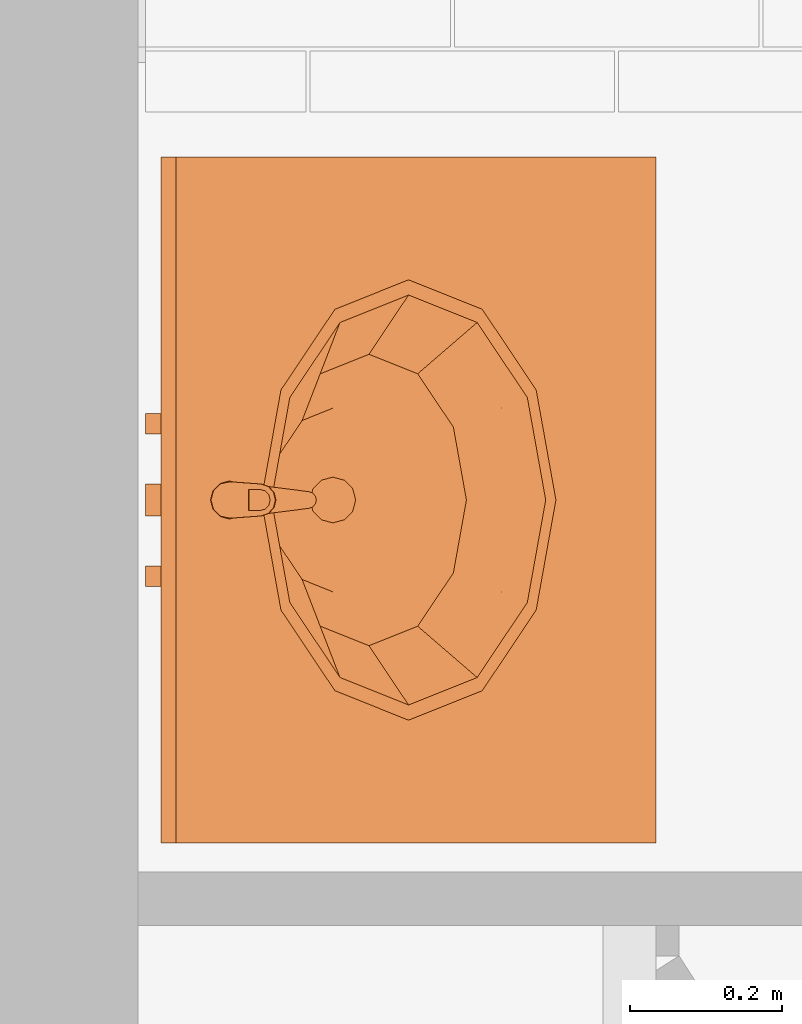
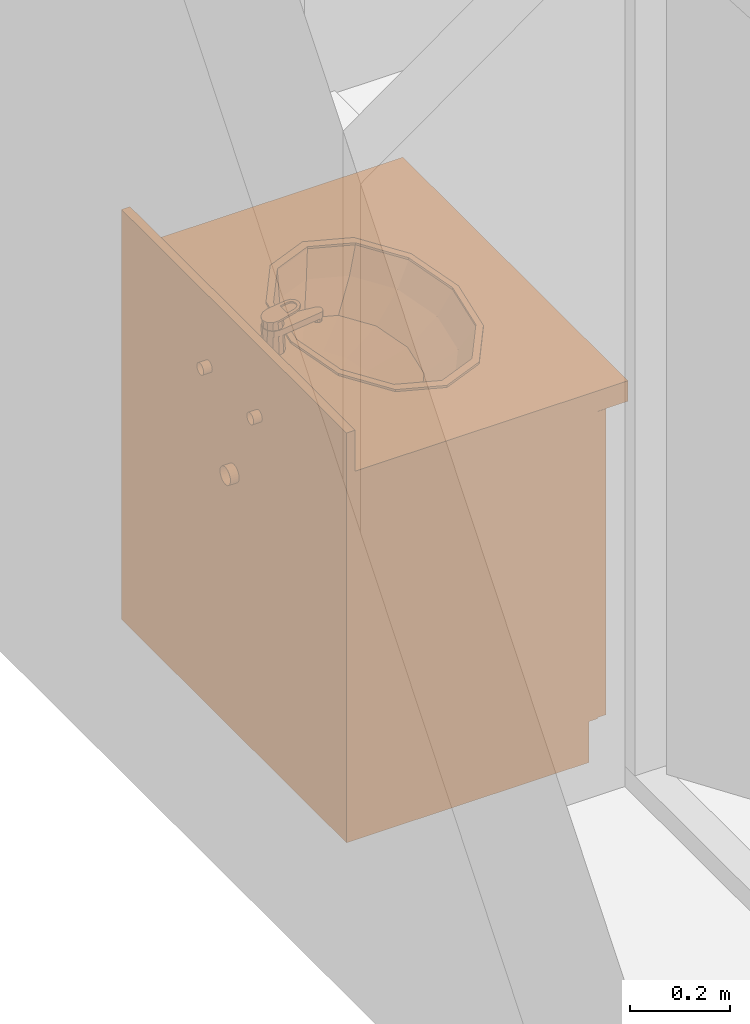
# One storey, part 13 of 13: 1 proxy.
"""IFC2X3 building model written with IfcOpenShell, lengths in metres."""

from ifc_helpers import new_model, entity, si_unit, converted_unit, derived_unit, money_unit, direction, frame, origin_with_axes, place, context, subcontext, project, spatial, open_shell, faceted_brep, surface_model, type_object, element, save


model = new_model("IFC2X3")

# Units and contexts
model_context = context("Model", 3, precision=1e-05, world=origin_with_axes(), true_north=direction((0.0, 1.0)))
body_context = subcontext(model_context, "Body", "Model", "MODEL_VIEW")
ifc_project = project(units=[si_unit("LENGTHUNIT", "METRE"), si_unit("AREAUNIT", "SQUARE_METRE"), si_unit("VOLUMEUNIT", "CUBIC_METRE"), converted_unit("PLANEANGLEUNIT", "DEGREE", entity("IfcPlaneAngleMeasure", 0.0174532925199), si_unit("PLANEANGLEUNIT", "RADIAN"), dimensions=[0, 0, 0, 0, 0, 0, 0]), si_unit("SOLIDANGLEUNIT", "STERADIAN"), money_unit("CHF"), converted_unit("TIMEUNIT", "Year", entity("IfcTimeMeasure", 31556926.0), si_unit("TIMEUNIT", "SECOND"), dimensions=[0, 0, 1, 0, 0, 0, 0]), si_unit("MASSUNIT", "GRAM", prefix="KILO"), si_unit("THERMODYNAMICTEMPERATUREUNIT", "DEGREE_CELSIUS"), si_unit("LUMINOUSINTENSITYUNIT", "LUMEN"), si_unit("ENERGYUNIT", "JOULE", prefix="MEGA"), derived_unit("THERMALCONDUCTANCEUNIT", [(si_unit("POWERUNIT", "WATT"), 1), (si_unit("LENGTHUNIT", "METRE"), -1), (si_unit("THERMODYNAMICTEMPERATUREUNIT", "KELVIN"), -1)]), derived_unit("SPECIFICHEATCAPACITYUNIT", [(si_unit("ENERGYUNIT", "JOULE"), 1), (si_unit("MASSUNIT", "GRAM", prefix="KILO"), -1), (si_unit("THERMODYNAMICTEMPERATUREUNIT", "KELVIN"), -1)]), derived_unit("MASSDENSITYUNIT", [(si_unit("MASSUNIT", "GRAM", prefix="KILO"), 1), (si_unit("VOLUMEUNIT", "CUBIC_METRE"), -1)])], contexts=[model_context])

# Site, building, storey
site_placement = place(None, origin_with_axes())
site = spatial("IfcSite", under=ifc_project, at=site_placement, Name="Site", CompositionType="ELEMENT")
building_placement = place(site_placement, origin_with_axes())
building = spatial("IfcBuilding", under=site, at=building_placement, Name="Bâtiment", CompositionType="ELEMENT")
storey_placement = place(building_placement, origin_with_axes())
storey = spatial("IfcBuildingStorey", under=building, at=storey_placement, Name="SOUS-SOL", CompositionType="ELEMENT", Elevation=0.0)

# Proxy
building_element_proxy_type = type_object("IfcBuildingElementProxyType", Name="Lavabo sur meuble 21", PredefinedType="NOTDEFINED")
proxy_placement = place(storey_placement, frame((89.9855190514, 17.2058442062, -2.74), z_axis=(0.0, 0.0, 1.0), x_axis=(0.0, 1.0, 0.0)))
element("IfcBuildingElementProxy", 1, at=proxy_placement, inside=storey, type_object=building_element_proxy_type, Name="MOB-0599", context=body_context, shape_type="SurfaceModel", body=[
    surface_model("IfcShellBasedSurfaceModel", [(-0.35, 0.65, 0.8165), (-0.35, 0.67, 0.8165), (-0.346505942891, 0.67, 0.816960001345), (-0.346505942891, 0.65, 0.816960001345), (-0.353494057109, 0.65, 0.816960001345), (-0.353494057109, 0.67, 0.816960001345), (-0.34325, 0.67, 0.818308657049), (-0.34325, 0.65, 0.818308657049), (-0.35675, 0.65, 0.818308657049), (-0.35675, 0.67, 0.818308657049), (-0.340454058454, 0.67, 0.820454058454), (-0.340454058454, 0.65, 0.820454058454), (-0.359545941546, 0.65, 0.820454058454), (-0.359545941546, 0.67, 0.820454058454), (-0.338308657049, 0.67, 0.82325), (-0.338308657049, 0.65, 0.82325), (-0.361691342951, 0.65, 0.82325), (-0.361691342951, 0.67, 0.82325), (-0.336960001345, 0.67, 0.826505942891), (-0.336960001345, 0.65, 0.826505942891), (-0.363039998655, 0.65, 0.826505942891), (-0.363039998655, 0.67, 0.826505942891), (-0.3365, 0.67, 0.83), (-0.3365, 0.65, 0.83), (-0.3635, 0.65, 0.83), (-0.3635, 0.67, 0.83), (-0.336960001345, 0.67, 0.833494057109), (-0.336960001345, 0.65, 0.833494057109), (-0.363039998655, 0.65, 0.833494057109), (-0.363039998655, 0.67, 0.833494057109), (-0.338308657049, 0.67, 0.83675), (-0.338308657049, 0.65, 0.83675), (-0.361691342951, 0.65, 0.83675), (-0.361691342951, 0.67, 0.83675), (-0.340454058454, 0.67, 0.839545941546), (-0.340454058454, 0.65, 0.839545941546), (-0.359545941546, 0.65, 0.839545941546), (-0.359545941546, 0.67, 0.839545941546), (-0.34325, 0.67, 0.841691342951), (-0.34325, 0.65, 0.841691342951), (-0.35675, 0.65, 0.841691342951), (-0.35675, 0.67, 0.841691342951), (-0.346505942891, 0.67, 0.843039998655), (-0.346505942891, 0.65, 0.843039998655), (-0.353494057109, 0.65, 0.843039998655), (-0.353494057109, 0.67, 0.843039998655), (-0.35, 0.67, 0.8435), (-0.35, 0.65, 0.8435)], [open_shell([[[0, 1, 2, 3]], [[4, 5, 1, 0]], [[3, 2, 6, 7]], [[8, 9, 5, 4]], [[7, 6, 10, 11]], [[12, 13, 9, 8]], [[11, 10, 14, 15]], [[16, 17, 13, 12]], [[15, 14, 18, 19]], [[20, 21, 17, 16]], [[19, 18, 22, 23]], [[24, 25, 21, 20]], [[23, 22, 26, 27]], [[28, 29, 25, 24]], [[27, 26, 30, 31]], [[32, 33, 29, 28]], [[31, 30, 34, 35]], [[36, 37, 33, 32]], [[35, 34, 38, 39]], [[40, 41, 37, 36]], [[39, 38, 42, 43]], [[44, 45, 41, 40]], [[43, 42, 46, 47]], [[47, 46, 45, 44]]])]),
    surface_model("IfcShellBasedSurfaceModel", [(-0.55, 0.65, 0.8165), (-0.55, 0.67, 0.8165), (-0.546505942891, 0.67, 0.816960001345), (-0.546505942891, 0.65, 0.816960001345), (-0.553494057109, 0.65, 0.816960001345), (-0.553494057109, 0.67, 0.816960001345), (-0.54325, 0.67, 0.818308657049), (-0.54325, 0.65, 0.818308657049), (-0.55675, 0.65, 0.818308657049), (-0.55675, 0.67, 0.818308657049), (-0.540454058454, 0.67, 0.820454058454), (-0.540454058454, 0.65, 0.820454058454), (-0.559545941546, 0.65, 0.820454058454), (-0.559545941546, 0.67, 0.820454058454), (-0.538308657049, 0.67, 0.82325), (-0.538308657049, 0.65, 0.82325), (-0.561691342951, 0.65, 0.82325), (-0.561691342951, 0.67, 0.82325), (-0.536960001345, 0.67, 0.826505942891), (-0.536960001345, 0.65, 0.826505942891), (-0.563039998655, 0.65, 0.826505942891), (-0.563039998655, 0.67, 0.826505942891), (-0.5365, 0.67, 0.83), (-0.5365, 0.65, 0.83), (-0.5635, 0.65, 0.83), (-0.5635, 0.67, 0.83), (-0.536960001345, 0.67, 0.833494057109), (-0.536960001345, 0.65, 0.833494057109), (-0.563039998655, 0.65, 0.833494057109), (-0.563039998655, 0.67, 0.833494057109), (-0.538308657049, 0.67, 0.83675), (-0.538308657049, 0.65, 0.83675), (-0.561691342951, 0.65, 0.83675), (-0.561691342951, 0.67, 0.83675), (-0.540454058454, 0.67, 0.839545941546), (-0.540454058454, 0.65, 0.839545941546), (-0.559545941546, 0.65, 0.839545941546), (-0.559545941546, 0.67, 0.839545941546), (-0.54325, 0.67, 0.841691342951), (-0.54325, 0.65, 0.841691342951), (-0.55675, 0.65, 0.841691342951), (-0.55675, 0.67, 0.841691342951), (-0.546505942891, 0.67, 0.843039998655), (-0.546505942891, 0.65, 0.843039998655), (-0.553494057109, 0.65, 0.843039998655), (-0.553494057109, 0.67, 0.843039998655), (-0.55, 0.67, 0.8435), (-0.55, 0.65, 0.8435)], [open_shell([[[0, 1, 2, 3]], [[4, 5, 1, 0]], [[3, 2, 6, 7]], [[8, 9, 5, 4]], [[7, 6, 10, 11]], [[12, 13, 9, 8]], [[11, 10, 14, 15]], [[16, 17, 13, 12]], [[15, 14, 18, 19]], [[20, 21, 17, 16]], [[19, 18, 22, 23]], [[24, 25, 21, 20]], [[23, 22, 26, 27]], [[28, 29, 25, 24]], [[27, 26, 30, 31]], [[32, 33, 29, 28]], [[31, 30, 34, 35]], [[36, 37, 33, 32]], [[35, 34, 38, 39]], [[40, 41, 37, 36]], [[39, 38, 42, 43]], [[44, 45, 41, 40]], [[43, 42, 46, 47]], [[47, 46, 45, 44]]])]),
    surface_model("IfcShellBasedSurfaceModel", [(-0.45, 0.65, 0.609), (-0.45, 0.67, 0.609), (-0.444564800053, 0.67, 0.609715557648), (-0.444564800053, 0.65, 0.609715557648), (-0.455435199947, 0.65, 0.609715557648), (-0.455435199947, 0.67, 0.609715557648), (-0.4395, 0.67, 0.611813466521), (-0.4395, 0.65, 0.611813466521), (-0.4605, 0.65, 0.611813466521), (-0.4605, 0.67, 0.611813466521), (-0.435150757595, 0.67, 0.615150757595), (-0.435150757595, 0.65, 0.615150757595), (-0.464849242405, 0.65, 0.615150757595), (-0.464849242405, 0.67, 0.615150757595), (-0.431813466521, 0.67, 0.6195), (-0.431813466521, 0.65, 0.6195), (-0.468186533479, 0.65, 0.6195), (-0.468186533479, 0.67, 0.6195), (-0.429715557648, 0.67, 0.624564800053), (-0.429715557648, 0.65, 0.624564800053), (-0.470284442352, 0.65, 0.624564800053), (-0.470284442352, 0.67, 0.624564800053), (-0.429, 0.67, 0.63), (-0.429, 0.65, 0.63), (-0.471, 0.65, 0.63), (-0.471, 0.67, 0.63), (-0.429715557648, 0.67, 0.635435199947), (-0.429715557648, 0.65, 0.635435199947), (-0.470284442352, 0.65, 0.635435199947), (-0.470284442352, 0.67, 0.635435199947), (-0.431813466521, 0.67, 0.6405), (-0.431813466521, 0.65, 0.6405), (-0.468186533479, 0.65, 0.6405), (-0.468186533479, 0.67, 0.6405), (-0.435150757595, 0.67, 0.644849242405), (-0.435150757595, 0.65, 0.644849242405), (-0.464849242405, 0.65, 0.644849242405), (-0.464849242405, 0.67, 0.644849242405), (-0.4395, 0.67, 0.648186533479), (-0.4395, 0.65, 0.648186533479), (-0.4605, 0.65, 0.648186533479), (-0.4605, 0.67, 0.648186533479), (-0.444564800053, 0.67, 0.650284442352), (-0.444564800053, 0.65, 0.650284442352), (-0.455435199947, 0.65, 0.650284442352), (-0.455435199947, 0.67, 0.650284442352), (-0.45, 0.67, 0.651), (-0.45, 0.65, 0.651)], [open_shell([[[0, 1, 2, 3]], [[4, 5, 1, 0]], [[3, 2, 6, 7]], [[8, 9, 5, 4]], [[7, 6, 10, 11]], [[12, 13, 9, 8]], [[11, 10, 14, 15]], [[16, 17, 13, 12]], [[15, 14, 18, 19]], [[20, 21, 17, 16]], [[19, 18, 22, 23]], [[24, 25, 21, 20]], [[23, 22, 26, 27]], [[28, 29, 25, 24]], [[27, 26, 30, 31]], [[32, 33, 29, 28]], [[31, 30, 34, 35]], [[36, 37, 33, 32]], [[35, 34, 38, 39]], [[40, 41, 37, 36]], [[39, 38, 42, 43]], [[44, 45, 41, 40]], [[43, 42, 46, 47]], [[47, 46, 45, 44]]])]),
    faceted_brep([(0.0, 0.09, 0.0), (0.0, 0.09, 0.1), (-0.9, 0.09, 0.1), (-0.9, 0.09, 0.0), (0.0, 0.65, 0.0), (0.0, 0.65, 0.1), (-0.9, 0.65, 0.1), (-0.9, 0.65, 0.0)], [[[0, 1, 2, 3]], [[4, 5, 1, 0]], [[1, 5, 6, 2]], [[3, 2, 6, 7]], [[0, 3, 7, 4]], [[7, 6, 5, 4]]]),
    faceted_brep([(0.0, 0.07, 0.1), (0.0, 0.07, 0.12), (-0.02, 0.07, 0.12), (-0.02, 0.07, 0.1), (0.0, 0.65, 0.1), (0.0, 0.65, 0.12), (-0.02, 0.65, 0.12), (-0.88, 0.65, 0.12), (-0.9, 0.65, 0.12), (-0.9, 0.07, 0.12), (-0.88, 0.07, 0.12), (-0.88, 0.07, 0.1), (-0.9, 0.07, 0.1), (-0.9, 0.65, 0.1), (-0.88, 0.65, 0.1), (-0.02, 0.65, 0.1)], [[[0, 1, 2, 3]], [[4, 5, 1, 0]], [[1, 5, 6, 7, 8, 9, 10, 2]], [[3, 2, 10, 11]], [[0, 3, 11, 12, 13, 14, 15, 4]], [[15, 6, 5, 4]], [[14, 7, 6, 15]], [[13, 8, 7, 14]], [[12, 9, 8, 13]], [[11, 10, 9, 12]]]),
    faceted_brep([(0.0, 0.07, 0.12), (0.0, 0.07, 0.85), (-0.02, 0.07, 0.85), (-0.02, 0.07, 0.12), (0.0, 0.65, 0.12), (0.0, 0.65, 0.85), (-0.9, 0.65, 0.85), (-0.9, 0.07, 0.85), (-0.88, 0.07, 0.85), (-0.88, 0.63, 0.85), (-0.02, 0.63, 0.85), (-0.02, 0.63, 0.12), (-0.88, 0.63, 0.12), (-0.88, 0.07, 0.12), (-0.9, 0.07, 0.12), (-0.9, 0.65, 0.12)], [[[0, 1, 2, 3]], [[4, 5, 1, 0]], [[1, 5, 6, 7, 8, 9, 10, 2]], [[3, 2, 10, 11]], [[0, 3, 11, 12, 13, 14, 15, 4]], [[15, 6, 5, 4]], [[14, 7, 6, 15]], [[13, 8, 7, 14]], [[12, 9, 8, 13]], [[11, 10, 9, 12]]]),
    faceted_brep([(-0.88, 0.07, 0.323333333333), (-0.88, 0.07, 0.343333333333), (-0.88, 0.63, 0.343333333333), (-0.88, 0.63, 0.323333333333), (-0.02, 0.07, 0.323333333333), (-0.02, 0.07, 0.343333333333), (-0.02, 0.63, 0.343333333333), (-0.02, 0.63, 0.323333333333)], [[[0, 1, 2, 3]], [[4, 5, 1, 0]], [[1, 5, 6, 2]], [[3, 2, 6, 7]], [[0, 3, 7, 4]], [[7, 6, 5, 4]]]),
    faceted_brep([(-0.88, 0.07, 0.566666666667), (-0.88, 0.07, 0.586666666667), (-0.88, 0.63, 0.586666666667), (-0.88, 0.63, 0.566666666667), (-0.02, 0.07, 0.566666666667), (-0.02, 0.07, 0.586666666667), (-0.02, 0.63, 0.586666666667), (-0.02, 0.63, 0.566666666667)], [[[0, 1, 2, 3]], [[4, 5, 1, 0]], [[1, 5, 6, 2]], [[3, 2, 6, 7]], [[0, 3, 7, 4]], [[7, 6, 5, 4]]]),
    faceted_brep([(0.0, 0.65, 0.85), (0.0, 0.0, 0.85), (-0.9, 0.0, 0.85), (-0.9, 0.65, 0.85), (-0.585, 0.169115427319, 0.85), (-0.45, 0.145, 0.85), (-0.315, 0.169115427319, 0.85), (-0.216173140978, 0.235, 0.85), (-0.18, 0.325, 0.85), (-0.216173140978, 0.415, 0.85), (-0.315, 0.480884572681, 0.85), (-0.45, 0.505, 0.85), (-0.585, 0.480884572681, 0.85), (-0.683826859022, 0.415, 0.85), (-0.72, 0.325, 0.85), (-0.683826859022, 0.235, 0.85), (0.0, 0.65, 0.9), (0.0, 0.0, 0.9), (-0.9, 0.0, 0.9), (-0.9, 0.65, 0.9), (-0.45, 0.145, 0.9), (-0.585, 0.169115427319, 0.9), (-0.315, 0.169115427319, 0.9), (-0.216173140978, 0.235, 0.9), (-0.18, 0.325, 0.9), (-0.216173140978, 0.415, 0.9), (-0.315, 0.480884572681, 0.9), (-0.45, 0.505, 0.9), (-0.585, 0.480884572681, 0.9), (-0.683826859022, 0.415, 0.9), (-0.72, 0.325, 0.9), (-0.683826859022, 0.235, 0.9)], [[[0, 1, 2, 3], [4, 5, 6, 7, 8, 9, 10, 11, 12, 13, 14, 15]], [[1, 0, 16, 17]], [[2, 1, 17, 18]], [[3, 2, 18, 19]], [[0, 3, 19, 16]], [[20, 5, 4, 21]], [[22, 6, 5, 20]], [[23, 7, 6, 22]], [[24, 8, 7, 23]], [[25, 9, 8, 24]], [[26, 10, 9, 25]], [[27, 11, 10, 26]], [[28, 12, 11, 27]], [[29, 13, 12, 28]], [[30, 14, 13, 29]], [[31, 15, 14, 30]], [[21, 4, 15, 31]], [[18, 17, 16, 19], [28, 27, 26, 25, 24, 23, 22, 20, 21, 31, 30, 29]]]),
    faceted_brep([(0.0, 0.63, 0.9), (0.0, 0.63, 1.0), (-0.9, 0.63, 1.0), (-0.9, 0.63, 0.9), (0.0, 0.65, 0.9), (0.0, 0.65, 1.0), (-0.9, 0.65, 1.0), (-0.9, 0.65, 0.9)], [[[0, 1, 2, 3]], [[4, 5, 1, 0]], [[1, 5, 6, 2]], [[3, 2, 6, 7]], [[0, 3, 7, 4]], [[7, 6, 5, 4]]]),
    faceted_brep([(-0.739, 0.325, 0.905), (-0.700281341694, 0.421691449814, 0.905), (-0.700281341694, 0.421691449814, 0.9), (-0.739, 0.325, 0.9), (-0.700281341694, 0.228308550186, 0.905), (-0.5945, 0.157525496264, 0.905), (-0.45, 0.131617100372, 0.905), (-0.3055, 0.157525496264, 0.905), (-0.199718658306, 0.228308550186, 0.905), (-0.161, 0.325, 0.905), (-0.199718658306, 0.421691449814, 0.905), (-0.3055, 0.492474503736, 0.905), (-0.45, 0.518382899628, 0.905), (-0.5945, 0.492474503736, 0.905), (-0.719, 0.325, 0.905), (-0.682960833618, 0.415, 0.905), (-0.5845, 0.480884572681, 0.905), (-0.45, 0.505, 0.905), (-0.3155, 0.480884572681, 0.905), (-0.217039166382, 0.415, 0.905), (-0.181, 0.325, 0.905), (-0.217039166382, 0.235, 0.905), (-0.3155, 0.169115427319, 0.905), (-0.45, 0.145, 0.905), (-0.5845, 0.169115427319, 0.905), (-0.682960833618, 0.235, 0.905), (-0.5945, 0.492474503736, 0.9), (-0.45, 0.518382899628, 0.9), (-0.3055, 0.492474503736, 0.9), (-0.199718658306, 0.421691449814, 0.9), (-0.161, 0.325, 0.9), (-0.199718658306, 0.228308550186, 0.9), (-0.3055, 0.157525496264, 0.9), (-0.45, 0.131617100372, 0.9), (-0.5945, 0.157525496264, 0.9), (-0.700281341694, 0.228308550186, 0.9), (-0.719, 0.325, 0.9), (-0.682960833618, 0.235, 0.9), (-0.5845, 0.169115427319, 0.9), (-0.45, 0.145, 0.9), (-0.3155, 0.169115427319, 0.9), (-0.217039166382, 0.235, 0.9), (-0.181, 0.325, 0.9), (-0.217039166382, 0.415, 0.9), (-0.3155, 0.480884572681, 0.9), (-0.45, 0.505, 0.9), (-0.5845, 0.480884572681, 0.9), (-0.682960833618, 0.415, 0.9)], [[[0, 1, 2, 3]], [[0, 4, 5, 6, 7, 8, 9, 10, 11, 12, 13, 1], [14, 15, 16, 17, 18, 19, 20, 21, 22, 23, 24, 25]], [[1, 13, 26, 2]], [[3, 2, 26, 27, 28, 29, 30, 31, 32, 33, 34, 35], [36, 37, 38, 39, 40, 41, 42, 43, 44, 45, 46, 47]], [[4, 0, 3, 35]], [[5, 4, 35, 34]], [[6, 5, 34, 33]], [[7, 6, 33, 32]], [[8, 7, 32, 31]], [[9, 8, 31, 30]], [[10, 9, 30, 29]], [[11, 10, 29, 28]], [[12, 11, 28, 27]], [[13, 12, 27, 26]], [[15, 14, 36, 47]], [[16, 15, 47, 46]], [[17, 16, 46, 45]], [[18, 17, 45, 44]], [[19, 18, 44, 43]], [[20, 19, 43, 42]], [[21, 20, 42, 41]], [[22, 21, 41, 40]], [[23, 22, 40, 39]], [[24, 23, 39, 38]], [[25, 24, 38, 37]], [[14, 25, 37, 36]]]),
    surface_model("IfcShellBasedSurfaceModel", [(-0.45, 0.505, 0.9), (-0.5845, 0.480884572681, 0.9), (-0.57105, 0.483296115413, 0.848), (-0.45, 0.505, 0.848), (-0.682960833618, 0.415, 0.9), (-0.659664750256, 0.424, 0.848), (-0.3155, 0.480884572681, 0.9), (-0.32895, 0.483296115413, 0.848), (-0.719, 0.325, 0.9), (-0.6921, 0.343, 0.848), (-0.217039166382, 0.415, 0.9), (-0.240335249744, 0.424, 0.848), (-0.682960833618, 0.235, 0.9), (-0.659664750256, 0.262, 0.848), (-0.181, 0.325, 0.9), (-0.2079, 0.343, 0.848), (-0.5845, 0.169115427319, 0.9), (-0.57105, 0.202703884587, 0.848), (-0.217039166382, 0.235, 0.9), (-0.240335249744, 0.262, 0.848), (-0.45, 0.145, 0.9), (-0.45, 0.181, 0.848), (-0.3155, 0.169115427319, 0.9), (-0.32895, 0.202703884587, 0.848)], [open_shell([[[0, 1, 2, 3]], [[1, 4, 5, 2]], [[6, 0, 3, 7]], [[4, 8, 9, 5]], [[10, 6, 7, 11]], [[8, 12, 13, 9]], [[14, 10, 11, 15]], [[12, 16, 17, 13]], [[18, 14, 15, 19]], [[16, 20, 21, 17]], [[22, 18, 19, 23]], [[20, 22, 23, 21]]])]),
    surface_model("IfcShellBasedSurfaceModel", [(-0.45, 0.505, 0.848), (-0.57105, 0.483296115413, 0.848), (-0.5456295, 0.487853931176, 0.796), (-0.45, 0.505, 0.796), (-0.659664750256, 0.424, 0.848), (-0.615635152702, 0.44101, 0.796), (-0.32895, 0.483296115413, 0.848), (-0.3543705, 0.487853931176, 0.796), (-0.6921, 0.343, 0.848), (-0.641259, 0.37702, 0.796), (-0.240335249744, 0.424, 0.848), (-0.284364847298, 0.44101, 0.796), (-0.659664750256, 0.262, 0.848), (-0.615635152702, 0.31303, 0.796), (-0.2079, 0.343, 0.848), (-0.258741, 0.37702, 0.796), (-0.57105, 0.202703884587, 0.848), (-0.5456295, 0.266186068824, 0.796), (-0.240335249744, 0.262, 0.848), (-0.284364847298, 0.31303, 0.796), (-0.45, 0.181, 0.848), (-0.45, 0.24904, 0.796), (-0.32895, 0.202703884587, 0.848), (-0.3543705, 0.266186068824, 0.796)], [open_shell([[[0, 1, 2, 3]], [[1, 4, 5, 2]], [[6, 0, 3, 7]], [[4, 8, 9, 5]], [[10, 6, 7, 11]], [[8, 12, 13, 9]], [[14, 10, 11, 15]], [[12, 16, 17, 13]], [[18, 14, 15, 19]], [[16, 20, 21, 17]], [[22, 18, 19, 23]], [[20, 22, 23, 21]]])]),
    surface_model("IfcShellBasedSurfaceModel", [(-0.45, 0.505, 0.796), (-0.5456295, 0.487853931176, 0.796), (-0.510246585, 0.494197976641, 0.77), (-0.45, 0.505, 0.77), (-0.615635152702, 0.44101, 0.796), (-0.554350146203, 0.4646863, 0.77), (-0.3543705, 0.487853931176, 0.796), (-0.389753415, 0.494197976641, 0.77), (-0.641259, 0.37702, 0.796), (-0.57049317, 0.4243726, 0.77), (-0.284364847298, 0.44101, 0.796), (-0.345649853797, 0.4646863, 0.77), (-0.615635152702, 0.31303, 0.796), (-0.554350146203, 0.3840589, 0.77), (-0.258741, 0.37702, 0.796), (-0.32950683, 0.4243726, 0.77), (-0.5456295, 0.266186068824, 0.796), (-0.510246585, 0.354547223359, 0.77), (-0.284364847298, 0.31303, 0.796), (-0.345649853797, 0.3840589, 0.77), (-0.45, 0.24904, 0.796), (-0.45, 0.3437452, 0.77), (-0.3543705, 0.266186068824, 0.796), (-0.389753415, 0.354547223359, 0.77)], [open_shell([[[0, 1, 2, 3]], [[1, 4, 5, 2]], [[6, 0, 3, 7]], [[4, 8, 9, 5]], [[10, 6, 7, 11]], [[8, 12, 13, 9]], [[14, 10, 11, 15]], [[12, 16, 17, 13]], [[18, 14, 15, 19]], [[16, 20, 21, 17]], [[22, 18, 19, 23]], [[20, 22, 23, 21]]])]),
    surface_model("IfcShellBasedSurfaceModel", [(-0.45, 0.505, 0.77), (-0.510246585, 0.494197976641, 0.77), (-0.465, 0.450353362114, 0.763), (-0.475980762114, 0.4393726, 0.763), (-0.45, 0.4543726, 0.763), (-0.554350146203, 0.4646863, 0.77), (-0.389753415, 0.494197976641, 0.77), (-0.48, 0.4243726, 0.763), (-0.435, 0.450353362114, 0.763), (-0.57049317, 0.4243726, 0.77), (-0.345649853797, 0.4646863, 0.77), (-0.475980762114, 0.4093726, 0.763), (-0.424019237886, 0.4393726, 0.763), (-0.554350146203, 0.3840589, 0.77), (-0.32950683, 0.4243726, 0.77), (-0.465, 0.398391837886, 0.763), (-0.42, 0.4243726, 0.763), (-0.510246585, 0.354547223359, 0.77), (-0.345649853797, 0.3840589, 0.77), (-0.45, 0.3943726, 0.763), (-0.424019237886, 0.4093726, 0.763), (-0.45, 0.3437452, 0.77), (-0.389753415, 0.354547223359, 0.77), (-0.435, 0.398391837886, 0.763)], [open_shell([[[0, 1, 2]], [[1, 3, 2]], [[0, 2, 4]], [[1, 5, 3]], [[6, 0, 4]], [[5, 7, 3]], [[6, 4, 8]], [[5, 9, 7]], [[10, 6, 8]], [[9, 11, 7]], [[10, 8, 12]], [[9, 13, 11]], [[14, 10, 12]], [[13, 15, 11]], [[14, 12, 16]], [[13, 17, 15]], [[18, 14, 16]], [[17, 19, 15]], [[18, 16, 20]], [[17, 21, 19]], [[22, 18, 20]], [[21, 23, 19]], [[22, 20, 23]], [[21, 22, 23]]])]),
    surface_model("IfcShellBasedSurfaceModel", [(-0.48, 0.4243726, 0.763), (-0.475980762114, 0.4393726, 0.763), (-0.475980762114, 0.4393726, 0.758), (-0.48, 0.4243726, 0.758), (-0.465, 0.450353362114, 0.763), (-0.465, 0.450353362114, 0.758), (-0.45, 0.4543726, 0.758), (-0.435, 0.450353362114, 0.758), (-0.424019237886, 0.4393726, 0.758), (-0.42, 0.4243726, 0.758), (-0.424019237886, 0.4093726, 0.758), (-0.435, 0.398391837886, 0.758), (-0.45, 0.3943726, 0.758), (-0.465, 0.398391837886, 0.758), (-0.475980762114, 0.4093726, 0.758), (-0.475980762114, 0.4093726, 0.763), (-0.45, 0.4543726, 0.763), (-0.435, 0.450353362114, 0.763), (-0.424019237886, 0.4393726, 0.763), (-0.42, 0.4243726, 0.763), (-0.424019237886, 0.4093726, 0.763), (-0.435, 0.398391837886, 0.763), (-0.45, 0.3943726, 0.763), (-0.465, 0.398391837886, 0.763)], [open_shell([[[0, 1, 2, 3]], [[1, 4, 5, 2]], [[3, 2, 5, 6, 7, 8, 9, 10, 11, 12, 13, 14]], [[15, 0, 3, 14]], [[4, 16, 6, 5]], [[16, 17, 7, 6]], [[17, 18, 8, 7]], [[18, 19, 9, 8]], [[19, 20, 10, 9]], [[20, 21, 11, 10]], [[21, 22, 12, 11]], [[22, 23, 13, 12]], [[23, 15, 14, 13]]])]),
    faceted_brep([(-0.4625, 0.581650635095, 0.9), (-0.460587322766, 0.578337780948, 0.976507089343), (-0.45, 0.581201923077, 0.975961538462), (-0.45, 0.585, 0.9), (-0.471650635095, 0.5725, 0.9), (-0.468273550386, 0.570550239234, 0.977990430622), (-0.471, 0.56, 0.98), (-0.468100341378, 0.549549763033, 0.981990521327), (-0.460414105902, 0.541962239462, 0.983435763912), (-0.45, 0.539198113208, 0.983962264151), (-0.439585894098, 0.541962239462, 0.983435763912), (-0.431899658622, 0.549549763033, 0.981990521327), (-0.429, 0.56, 0.98), (-0.431726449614, 0.570550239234, 0.977990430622), (-0.439412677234, 0.578337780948, 0.976507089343), (-0.4375, 0.581650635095, 0.9), (-0.428349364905, 0.5725, 0.9), (-0.425, 0.56, 0.9), (-0.428349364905, 0.5475, 0.9), (-0.4375, 0.538349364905, 0.9), (-0.45, 0.535, 0.9), (-0.4625, 0.538349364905, 0.9), (-0.471650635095, 0.5475, 0.9), (-0.475, 0.56, 0.9)], [[[0, 1, 2, 3]], [[4, 5, 1, 0]], [[1, 5, 6, 7, 8, 9, 10, 11, 12, 13, 14, 2]], [[3, 2, 14, 15]], [[0, 3, 15, 16, 17, 18, 19, 20, 21, 22, 23, 4]], [[23, 6, 5, 4]], [[22, 7, 6, 23]], [[21, 8, 7, 22]], [[20, 9, 8, 21]], [[19, 10, 9, 20]], [[18, 11, 10, 19]], [[17, 12, 11, 18]], [[16, 13, 12, 17]], [[15, 14, 13, 16]]]),
    faceted_brep([(-0.459, 0.457, 0.935), (-0.459, 0.457, 0.945), (-0.457794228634, 0.4615, 0.945), (-0.457794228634, 0.4615, 0.935), (-0.457794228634, 0.4525, 0.935), (-0.457794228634, 0.4525, 0.945), (-0.4545, 0.449205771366, 0.945), (-0.45, 0.448, 0.945), (-0.4455, 0.449205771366, 0.945), (-0.442205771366, 0.4525, 0.945), (-0.441, 0.457, 0.945), (-0.442205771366, 0.4615, 0.945), (-0.4455, 0.464794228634, 0.945), (-0.45, 0.466, 0.945), (-0.4545, 0.464794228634, 0.945), (-0.4545, 0.464794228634, 0.935), (-0.45, 0.466, 0.935), (-0.4455, 0.464794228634, 0.935), (-0.442205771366, 0.4615, 0.935), (-0.441, 0.457, 0.935), (-0.442205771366, 0.4525, 0.935), (-0.4455, 0.449205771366, 0.935), (-0.45, 0.448, 0.935), (-0.4545, 0.449205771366, 0.935)], [[[0, 1, 2, 3]], [[4, 5, 1, 0]], [[1, 5, 6, 7, 8, 9, 10, 11, 12, 13, 14, 2]], [[3, 2, 14, 15]], [[0, 3, 15, 16, 17, 18, 19, 20, 21, 22, 23, 4]], [[23, 6, 5, 4]], [[22, 7, 6, 23]], [[21, 8, 7, 22]], [[20, 9, 8, 21]], [[19, 10, 9, 20]], [[18, 11, 10, 19]], [[17, 12, 11, 18]], [[16, 13, 12, 17]], [[15, 14, 13, 16]]]),
    faceted_brep([(-0.437128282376, 0.580256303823, 0.96), (-0.45000000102, 0.583999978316, 0.96), (-0.462871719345, 0.580256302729, 0.96), (-0.471727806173, 0.570193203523, 0.96), (-0.473805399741, 0.556950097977, 0.96), (-0.460912, 0.4556117, 0.96), (-0.459028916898, 0.450716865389, 0.96), (-0.455093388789, 0.447250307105, 0.96), (-0.450000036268, 0.44600003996, 0.96), (-0.444906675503, 0.447250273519, 0.96), (-0.440971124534, 0.450716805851, 0.96), (-0.439088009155, 0.455611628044, 0.96), (-0.4261946, 0.5569501, 0.96), (-0.428272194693, 0.57019320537, 0.96), (-0.461, 0.579052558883, 0.96), (-0.45, 0.582, 0.96), (-0.439, 0.579052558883, 0.96), (-0.430947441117, 0.571, 0.96), (-0.428, 0.56, 0.96), (-0.430947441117, 0.549, 0.96), (-0.439, 0.540947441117, 0.96), (-0.45, 0.538, 0.96), (-0.461, 0.540947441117, 0.96), (-0.469052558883, 0.549, 0.96), (-0.472, 0.56, 0.96), (-0.469052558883, 0.571, 0.96), (-0.437128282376, 0.580256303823, 0.945), (-0.45000000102, 0.583999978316, 0.945), (-0.462871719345, 0.580256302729, 0.945), (-0.471727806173, 0.570193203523, 0.945), (-0.473805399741, 0.556950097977, 0.945), (-0.460912, 0.4556117, 0.945), (-0.459028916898, 0.450716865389, 0.945), (-0.455093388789, 0.447250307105, 0.945), (-0.450000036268, 0.44600003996, 0.945), (-0.444906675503, 0.447250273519, 0.945), (-0.440971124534, 0.450716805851, 0.945), (-0.439088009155, 0.455611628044, 0.945), (-0.4261946, 0.5569501, 0.945), (-0.428272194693, 0.57019320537, 0.945), (-0.45, 0.58275, 0.945), (-0.461375, 0.579702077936, 0.945), (-0.438625, 0.579702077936, 0.945), (-0.430297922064, 0.571375, 0.945), (-0.42725, 0.56, 0.945), (-0.430297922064, 0.548625, 0.945), (-0.438625, 0.540297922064, 0.945), (-0.45, 0.53725, 0.945), (-0.461375, 0.540297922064, 0.945), (-0.469702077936, 0.548625, 0.945), (-0.47275, 0.56, 0.945), (-0.469702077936, 0.571375, 0.945)], [[[0, 1, 2, 3, 4, 5, 6, 7, 8, 9, 10, 11, 12, 13], [14, 15, 16, 17, 18, 19, 20, 21, 22, 23, 24, 25]], [[26, 27, 1, 0]], [[27, 28, 2, 1]], [[28, 29, 3, 2]], [[29, 30, 4, 3]], [[30, 31, 5, 4]], [[31, 32, 6, 5]], [[32, 33, 7, 6]], [[33, 34, 8, 7]], [[34, 35, 9, 8]], [[35, 36, 10, 9]], [[36, 37, 11, 10]], [[37, 38, 12, 11]], [[38, 39, 13, 12]], [[39, 26, 0, 13]], [[40, 15, 14, 41]], [[42, 16, 15, 40]], [[16, 42, 43, 17]], [[17, 43, 44, 18]], [[18, 44, 45, 19]], [[19, 45, 46, 20]], [[20, 46, 47, 21]], [[48, 22, 21, 47]], [[49, 23, 22, 48]], [[50, 24, 23, 49]], [[51, 25, 24, 50]], [[41, 14, 25, 51]], [[34, 33, 32, 31, 30, 29, 28, 27, 26, 39, 38, 37, 36, 35], [48, 47, 46, 45, 44, 43, 42, 40, 41, 51, 50, 49]]]),
    faceted_brep([(-0.473893, 0.55830743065, 0.980322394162), (-0.473893, 0.559055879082, 0.984251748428), (-0.471296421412, 0.571523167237, 0.981877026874), (-0.471296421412, 0.570774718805, 0.977947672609), (-0.470945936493, 0.518163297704, 0.987968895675), (-0.470945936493, 0.518911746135, 0.991898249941), (-0.467663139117, 0.50923408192, 0.993741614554), (-0.460061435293, 0.50228470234, 0.995065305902), (-0.449999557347, 0.499762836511, 0.995545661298), (-0.439937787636, 0.502285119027, 0.995065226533), (-0.432336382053, 0.509234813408, 0.993741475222), (-0.429054, 0.518912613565, 0.991898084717), (-0.426106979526, 0.559056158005, 0.984251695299), (-0.428703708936, 0.571523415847, 0.98187697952), (-0.43752831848, 0.580839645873, 0.980102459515), (-0.450000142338, 0.584280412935, 0.979447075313), (-0.46247192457, 0.580839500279, 0.980102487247), (-0.464, 0.535207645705, 0.988794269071), (-0.436, 0.535207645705, 0.988794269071), (-0.436, 0.520392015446, 0.991616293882), (-0.437875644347, 0.513515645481, 0.992926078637), (-0.443, 0.508481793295, 0.993884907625), (-0.45, 0.506639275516, 0.994235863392), (-0.457, 0.508481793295, 0.993884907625), (-0.462124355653, 0.513515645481, 0.992926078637), (-0.464, 0.520392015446, 0.991616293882), (-0.46247192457, 0.580091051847, 0.976173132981), (-0.450000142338, 0.583531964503, 0.975517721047), (-0.43752831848, 0.580091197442, 0.976173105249), (-0.428703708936, 0.570774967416, 0.977947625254), (-0.426106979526, 0.558307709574, 0.980322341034), (-0.429054, 0.518164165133, 0.987968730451), (-0.432336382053, 0.508486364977, 0.989812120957), (-0.439937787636, 0.501536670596, 0.991135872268), (-0.449999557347, 0.49901438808, 0.991616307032), (-0.460061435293, 0.501536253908, 0.991135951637), (-0.467663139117, 0.508485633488, 0.989812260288), (-0.464, 0.534459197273, 0.984864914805), (-0.464, 0.519643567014, 0.987686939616), (-0.462124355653, 0.512767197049, 0.988996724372), (-0.457, 0.507733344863, 0.989955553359), (-0.45, 0.505890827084, 0.990306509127), (-0.443, 0.507733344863, 0.989955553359), (-0.437875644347, 0.512767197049, 0.988996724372), (-0.436, 0.519643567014, 0.987686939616), (-0.436, 0.534459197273, 0.984864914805)], [[[0, 1, 2, 3]], [[4, 5, 1, 0]], [[1, 5, 6, 7, 8, 9, 10, 11, 12, 13, 14, 15, 16, 2], [17, 18, 19, 20, 21, 22, 23, 24, 25]], [[3, 2, 16, 26]], [[0, 3, 26, 27, 28, 29, 30, 31, 32, 33, 34, 35, 36, 4], [37, 38, 39, 40, 41, 42, 43, 44, 45]], [[36, 6, 5, 4]], [[35, 7, 6, 36]], [[34, 8, 7, 35]], [[33, 9, 8, 34]], [[32, 10, 9, 33]], [[31, 11, 10, 32]], [[30, 12, 11, 31]], [[29, 13, 12, 30]], [[28, 14, 13, 29]], [[27, 15, 14, 28]], [[26, 16, 15, 27]], [[45, 18, 17, 37]], [[44, 19, 18, 45]], [[43, 20, 19, 44]], [[42, 21, 20, 43]], [[41, 22, 21, 42]], [[40, 23, 22, 41]], [[39, 24, 23, 40]], [[38, 25, 24, 39]], [[37, 17, 25, 38]]]),
    faceted_brep([(-0.0015, 0.07, 0.1015), (-0.0015, 0.05, 0.1015), (-0.4485, 0.05, 0.1015), (-0.4485, 0.07, 0.1015), (-0.0015, 0.07, 0.8485), (-0.0015, 0.05, 0.8485), (-0.4485, 0.05, 0.8485), (-0.4485, 0.07, 0.8485)], [[[0, 1, 2, 3]], [[4, 5, 1, 0]], [[1, 5, 6, 2]], [[3, 2, 6, 7]], [[0, 3, 7, 4]], [[7, 6, 5, 4]]]),
    faceted_brep([(-0.408892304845, 0.05, 0.7855), (-0.4105, 0.05, 0.7915), (-0.408892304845, 0.05, 0.7975), (-0.4045, 0.05, 0.801892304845), (-0.3985, 0.05, 0.8035), (-0.3925, 0.05, 0.801892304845), (-0.388107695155, 0.05, 0.7975), (-0.3865, 0.05, 0.7915), (-0.388107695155, 0.05, 0.7855), (-0.3925, 0.05, 0.781107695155), (-0.3985, 0.05, 0.7795), (-0.4045, 0.05, 0.781107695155), (-0.408892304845, 0.025, 0.7855), (-0.4105, 0.025, 0.7915), (-0.408892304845, 0.025, 0.7975), (-0.4045, 0.025, 0.801892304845), (-0.3985, 0.025, 0.8035), (-0.3925, 0.025, 0.801892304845), (-0.388107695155, 0.025, 0.7975), (-0.3865, 0.025, 0.7915), (-0.388107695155, 0.025, 0.7855), (-0.3925, 0.025, 0.781107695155), (-0.3985, 0.025, 0.7795), (-0.4045, 0.025, 0.781107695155)], [[[0, 1, 2, 3, 4, 5, 6, 7, 8, 9, 10, 11]], [[0, 12, 13, 1]], [[1, 13, 14, 2]], [[2, 14, 15, 3]], [[3, 15, 16, 4]], [[4, 16, 17, 5]], [[5, 17, 18, 6]], [[6, 18, 19, 7]], [[7, 19, 20, 8]], [[8, 20, 21, 9]], [[9, 21, 22, 10]], [[10, 22, 23, 11]], [[11, 23, 12, 0]], [[12, 23, 22, 21, 20, 19, 18, 17, 16, 15, 14, 13]]]),
    faceted_brep([(-0.8985, 0.07, 0.1015), (-0.4515, 0.07, 0.1015), (-0.4515, 0.05, 0.1015), (-0.8985, 0.05, 0.1015), (-0.8985, 0.07, 0.8485), (-0.4515, 0.07, 0.8485), (-0.4515, 0.05, 0.8485), (-0.8985, 0.05, 0.8485)], [[[0, 1, 2, 3]], [[0, 4, 5, 1]], [[1, 5, 6, 2]], [[3, 2, 6, 7]], [[4, 0, 3, 7]], [[5, 4, 7, 6]]]),
    faceted_brep([(-0.491107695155, 0.05, 0.7855), (-0.4955, 0.05, 0.781107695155), (-0.5015, 0.05, 0.7795), (-0.5075, 0.05, 0.781107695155), (-0.511892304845, 0.05, 0.7855), (-0.5135, 0.05, 0.7915), (-0.511892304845, 0.05, 0.7975), (-0.5075, 0.05, 0.801892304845), (-0.5015, 0.05, 0.8035), (-0.4955, 0.05, 0.801892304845), (-0.491107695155, 0.05, 0.7975), (-0.4895, 0.05, 0.7915), (-0.491107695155, 0.025, 0.7855), (-0.4955, 0.025, 0.781107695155), (-0.5015, 0.025, 0.7795), (-0.5075, 0.025, 0.781107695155), (-0.511892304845, 0.025, 0.7855), (-0.5135, 0.025, 0.7915), (-0.511892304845, 0.025, 0.7975), (-0.5075, 0.025, 0.801892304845), (-0.5015, 0.025, 0.8035), (-0.4955, 0.025, 0.801892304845), (-0.491107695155, 0.025, 0.7975), (-0.4895, 0.025, 0.7915)], [[[0, 1, 2, 3, 4, 5, 6, 7, 8, 9, 10, 11]], [[1, 0, 12, 13]], [[2, 1, 13, 14]], [[3, 2, 14, 15]], [[4, 3, 15, 16]], [[5, 4, 16, 17]], [[6, 5, 17, 18]], [[7, 6, 18, 19]], [[8, 7, 19, 20]], [[9, 8, 20, 21]], [[10, 9, 21, 22]], [[11, 10, 22, 23]], [[0, 11, 23, 12]], [[12, 23, 22, 21, 20, 19, 18, 17, 16, 15, 14, 13]]]),
])

save(model, "model.ifc")
